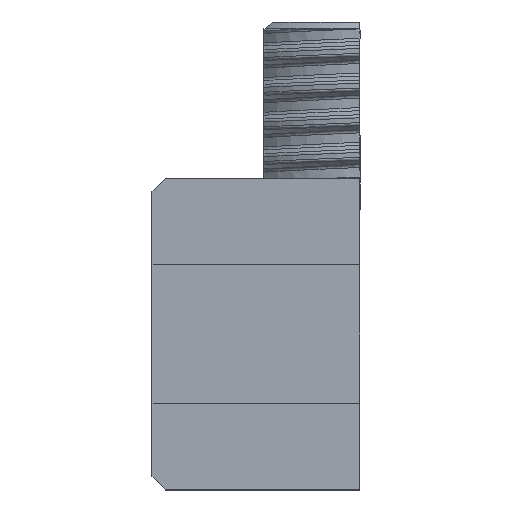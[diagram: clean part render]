
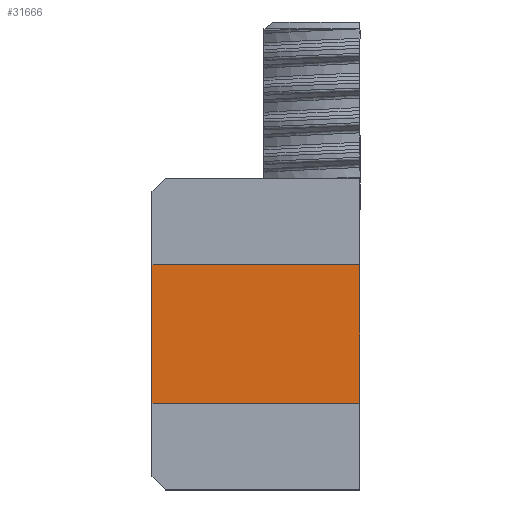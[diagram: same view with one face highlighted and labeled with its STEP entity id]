
A CAD part, left-side view. The second image highlights one B-rep face of the part: STEP entity #31666.
In plain terms, the highlighted planar face has unit normal (-1, 0, 0).
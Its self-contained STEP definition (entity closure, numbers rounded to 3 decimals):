
#1726 = LINE ( 'NONE', #2860, #37068 ) ;
#1750 = ORIENTED_EDGE ( 'NONE', *, *, #2005, .F. ) ;
#2005 = EDGE_CURVE ( 'NONE', #25259, #7038, #35393, .T. ) ;
#2860 = CARTESIAN_POINT ( 'NONE',  ( -52., -25., 15.16 ) ) ;
#3218 = CARTESIAN_POINT ( 'NONE',  ( -52., 25., -15.16 ) ) ;
#5278 = CARTESIAN_POINT ( 'NONE',  ( -52., -5., -15.16 ) ) ;
#6726 = EDGE_LOOP ( 'NONE', ( #13423, #23051, #15781, #1750 ) ) ;
#7038 = VERTEX_POINT ( 'NONE', #3218 ) ;
#8073 = VERTEX_POINT ( 'NONE', #35944 ) ;
#9369 = EDGE_CURVE ( 'NONE', #9401, #7038, #18763, .T. ) ;
#9401 = VERTEX_POINT ( 'NONE', #12432 ) ;
#12363 = DIRECTION ( 'NONE',  ( 1., 0., 0. ) ) ;
#12432 = CARTESIAN_POINT ( 'NONE',  ( -52., 25., 15.16 ) ) ;
#12470 = CARTESIAN_POINT ( 'NONE',  ( -52., -5., -22.51 ) ) ;
#13423 = ORIENTED_EDGE ( 'NONE', *, *, #20648, .T. ) ;
#15158 = AXIS2_PLACEMENT_3D ( 'NONE', #17942, #12363, #24077 ) ;
#15247 = PLANE ( 'NONE',  #15158 ) ;
#15781 = ORIENTED_EDGE ( 'NONE', *, *, #9369, .T. ) ;
#17516 = EDGE_CURVE ( 'NONE', #8073, #9401, #1726, .T. ) ;
#17942 = CARTESIAN_POINT ( 'NONE',  ( -52., -25., -15.16 ) ) ;
#18763 = LINE ( 'NONE', #27594, #22912 ) ;
#20648 = EDGE_CURVE ( 'NONE', #25259, #8073, #36481, .T. ) ;
#22912 = VECTOR ( 'NONE', #36443, 1000. ) ;
#23023 = DIRECTION ( 'NONE',  ( 0., 1., 0. ) ) ;
#23051 = ORIENTED_EDGE ( 'NONE', *, *, #17516, .T. ) ;
#23271 = VECTOR ( 'NONE', #26886, 1000. ) ;
#24077 = DIRECTION ( 'NONE',  ( 0., 0., -1. ) ) ;
#24732 = VECTOR ( 'NONE', #32877, 1000. ) ;
#25259 = VERTEX_POINT ( 'NONE', #5278 ) ;
#26886 = DIRECTION ( 'NONE',  ( 0., 0., 1. ) ) ;
#27594 = CARTESIAN_POINT ( 'NONE',  ( -52., 25., -15.16 ) ) ;
#31666 = ADVANCED_FACE ( 'NONE', ( #33114 ), #15247, .F. ) ;
#32877 = DIRECTION ( 'NONE',  ( 0., 1., 0. ) ) ;
#33114 = FACE_OUTER_BOUND ( 'NONE', #6726, .T. ) ;
#35393 = LINE ( 'NONE', #35770, #24732 ) ;
#35770 = CARTESIAN_POINT ( 'NONE',  ( -52., -25., -15.16 ) ) ;
#35944 = CARTESIAN_POINT ( 'NONE',  ( -52., -5., 15.16 ) ) ;
#36443 = DIRECTION ( 'NONE',  ( 0., 0., -1. ) ) ;
#36481 = LINE ( 'NONE', #12470, #23271 ) ;
#37068 = VECTOR ( 'NONE', #23023, 1000. ) ;
